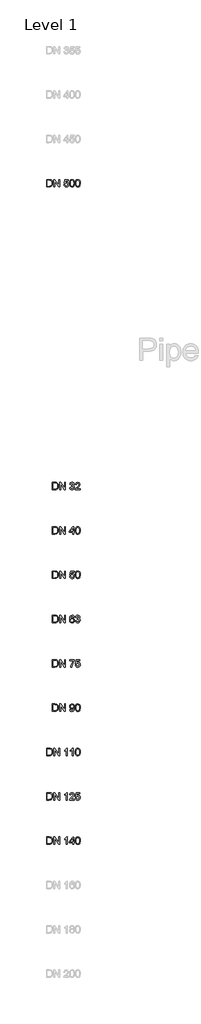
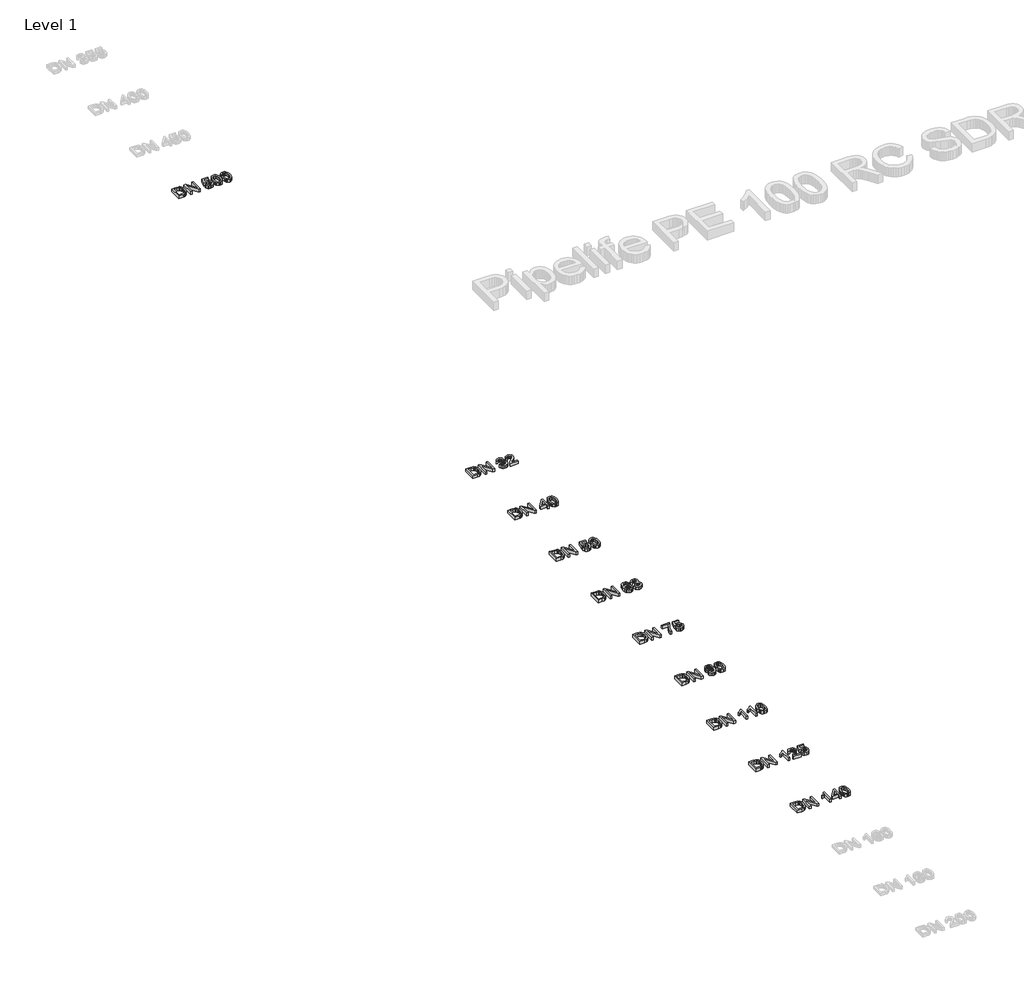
# One storey, part 4 of 17: 10 proxies.
"""IFC4 building model written with IfcOpenShell, lengths in millimetres."""

from ifc_helpers import new_model, si_unit, origin, origin_with_axes, place, context, project, spatial, polyline, outline, extrude, element, save

model = new_model("IFC4")

# Units and contexts
model_context = context("Model", 3, world=origin())
ifc_project = project(units=[si_unit("LENGTHUNIT", "METRE", prefix="MILLI")], contexts=[model_context])

# Site, building, storey
site = spatial("IfcSite", under=ifc_project)
building = spatial("IfcBuilding", under=site)
storey = spatial("IfcBuildingStorey", under=building, Name="Level 1", Elevation=0.0)

# Proxies
placement = place(None, origin())
element("IfcBuildingElementProxy", 1, Name="200mm Arial", ObjectType="200mm Arial", at=placement, inside=storey, context=model_context, shape_type="SweptSolid", body=[
    extrude(outline(polyline([(-19491.3116028, -22313.949573), (-19491.3116028, -22113.0369527), (-19422.0026349, -22113.0369527), (-19386.1464031, -22115.9309577), (-19370.1312736, -22121.5105013), (-19356.6177416, -22130.302881), (-19342.724065, -22145.606772), (-19332.8280393, -22164.6385338), (-19326.9051392, -22187.0302846), (-19324.9308391, -22212.4141423), (-19330.2773908, -22252.9547382), (-19344.0116519, -22282.2136195), (-19362.3567008, -22300.436041), (-19386.3671323, -22310.5160077), (-19418.6671715, -22313.949573), (-19491.3116028, -22313.949573)]), holes=[polyline([(-19466.1975253, -22288.8354954), (-19421.7573803, -22288.8354954), (-19389.4328156, -22285.2057264), (-19370.7934612, -22274.9540815), (-19362.0685265, -22264.0831685), (-19355.5140957, -22250.0116822), (-19351.4122114, -22232.6783089), (-19350.0449167, -22212.0217348), (-19352.7243239, -22184.6513144), (-19360.7625455, -22164.4423301), (-19372.6390025, -22150.5609162), (-19386.8331162, -22142.1732067), (-19422.4440933, -22138.1510302), (-19466.1975253, -22138.1510302), (-19466.1975253, -22288.8354954)])]), origin_with_axes(), (0.0, 0.0, 1.0), 50.0),
    extrude(outline(polyline([(-19290.3989825, -22313.949573), (-19290.3989825, -22113.0369527), (-19263.5190714, -22113.0369527), (-19158.5500754, -22272.2072292), (-19158.5500754, -22113.0369527), (-19133.4359979, -22113.0369527), (-19133.4359979, -22313.949573), (-19160.315909, -22313.949573), (-19265.284905, -22154.7302454), (-19265.284905, -22313.949573), (-19290.3989825, -22313.949573)])), origin_with_axes(), (0.0, 0.0, 1.0), 50.0),
    extrude(outline(polyline([(-19020.422649, -22260.5821582), (-18995.3085714, -22257.4428985), (-18990.6977838, -22272.5199289), (-18982.6534308, -22283.3172655), (-18971.2123008, -22289.8103827), (-18956.4111818, -22291.9747551), (-18938.4094895, -22288.9642541), (-18924.920483, -22279.9327511), (-18916.4959853, -22265.9225785), (-18913.6878195, -22247.9760685), (-18916.3181757, -22231.0780222), (-18924.2092445, -22218.1531014), (-18937.4223395, -22209.9493329), (-18956.0187744, -22207.2147434), (-18978.0671686, -22211.5802764), (-18992.1693118, -22222.9110419), (-19017.2833893, -22219.7717822), (-18995.3085714, -22116.1762123), (-18897.991521, -22116.1762123), (-18897.991521, -22141.2902899), (-18975.0014853, -22141.2902899), (-18985.7436396, -22196.619742), (-18967.8032609, -22185.7304349), (-18949.004491, -22182.1006659), (-18925.5397511, -22186.601089), (-18906.0603994, -22200.1023582), (-18892.9454063, -22220.6792244), (-18888.5737419, -22246.4064386), (-18892.5100793, -22271.5205162), (-18904.3190913, -22293.0048247), (-18914.7546772, -22303.5415782), (-18926.9315713, -22311.0678307), (-18940.8497734, -22315.5835821), (-18956.5092837, -22317.0888326), (-18981.1757715, -22313.2199403), (-19000.8268014, -22301.6132634), (-19014.2974138, -22283.6177025), (-19020.422649, -22260.5821582)])), origin_with_axes(), (0.0, 0.0, 1.0), 50.0),
    extrude(outline(polyline([(-18866.5989241, -22215.1119436), (-18864.7533827, -22182.9529258), (-18859.2167587, -22157.3054194), (-18850.0442343, -22137.7770168), (-18837.2909918, -22123.9753106), (-18820.8650607, -22115.7715422), (-18800.6744705, -22113.0369527), (-18785.1989013, -22114.6556334), (-18771.3420128, -22119.5116758), (-18759.7537299, -22127.4150073), (-18751.0839776, -22138.1755557), (-18739.3117537, -22167.9004209), (-18734.750017, -22215.1119436), (-18736.5771642, -22247.0870203), (-18742.058606, -22272.6732131), (-18751.1759481, -22292.2200098), (-18763.9107965, -22306.0768983), (-18780.3735158, -22314.335849), (-18800.6744705, -22317.0888326), (-18826.7695667, -22312.3063667), (-18846.5861435, -22297.9589689), (-18855.341735, -22282.8298218), (-18861.5957289, -22263.9789353), (-18866.5989241, -22215.1119436)]), holes=[polyline([(-18841.4848465, -22215.0628927), (-18838.5417906, -22254.5672876), (-18829.7126227, -22277.4311536), (-18816.5669727, -22288.3388547), (-18800.6744705, -22291.9747551), (-18784.7819683, -22288.326592), (-18771.6363184, -22277.3821026), (-18762.8071505, -22254.5059739), (-18759.8640945, -22215.0628927), (-18762.7090486, -22176.4475459), (-18771.2439109, -22153.4058703), (-18784.3650354, -22141.9647402), (-18800.9687761, -22138.1510302), (-18816.6896001, -22141.5110191), (-18829.3202152, -22151.5909857), (-18838.4436887, -22176.0674012), (-18841.4848465, -22215.0628927)])]), origin_with_axes(), (0.0, 0.0, 1.0), 50.0),
    extrude(outline(polyline([(-18712.7751992, -22215.1119436), (-18710.9296578, -22182.9529258), (-18705.3930338, -22157.3054194), (-18696.2205094, -22137.7770168), (-18683.4672669, -22123.9753106), (-18667.0413358, -22115.7715422), (-18646.8507456, -22113.0369527), (-18631.3751764, -22114.6556334), (-18617.5182879, -22119.5116758), (-18605.930005, -22127.4150073), (-18597.2602527, -22138.1755557), (-18585.4880288, -22167.9004209), (-18580.9262921, -22215.1119436), (-18582.7534393, -22247.0870203), (-18588.2348811, -22272.6732131), (-18597.3522232, -22292.2200098), (-18610.0870716, -22306.0768983), (-18626.5497909, -22314.335849), (-18646.8507456, -22317.0888326), (-18672.9458418, -22312.3063667), (-18692.7624186, -22297.9589689), (-18701.5180101, -22282.8298218), (-18707.772004, -22263.9789353), (-18712.7751992, -22215.1119436)]), holes=[polyline([(-18687.6611216, -22215.0628927), (-18684.7180657, -22254.5672876), (-18675.8888978, -22277.4311536), (-18662.7432478, -22288.3388547), (-18646.8507456, -22291.9747551), (-18630.9582434, -22288.326592), (-18617.8125935, -22277.3821026), (-18608.9834256, -22254.5059739), (-18606.0403696, -22215.0628927), (-18608.8853237, -22176.4475459), (-18617.420186, -22153.4058703), (-18630.5413105, -22141.9647402), (-18647.1450512, -22138.1510302), (-18662.8658751, -22141.5110191), (-18675.4964903, -22151.5909857), (-18684.6199638, -22176.0674012), (-18687.6611216, -22215.0628927)])]), origin_with_axes(), (0.0, 0.0, 1.0), 50.0),
])
element("IfcBuildingElementProxy", 2, Name="200mm Arial", ObjectType="200mm Arial", at=placement, inside=storey, context=model_context, shape_type="SweptSolid", body=[
    extrude(outline(polyline([(-19337.4878779, -30513.949573), (-19337.4878779, -30313.0369527), (-19268.17891, -30313.0369527), (-19232.3226782, -30315.9309577), (-19216.3075487, -30321.5105013), (-19202.7940167, -30330.302881), (-19188.90034, -30345.606772), (-19179.0043144, -30364.6385338), (-19173.0814143, -30387.0302846), (-19171.1071142, -30412.4141423), (-19176.4536659, -30452.9547382), (-19190.187927, -30482.2136195), (-19208.5329759, -30500.436041), (-19232.5434074, -30510.5160077), (-19264.8434466, -30513.949573), (-19337.4878779, -30513.949573)]), holes=[polyline([(-19312.3738004, -30488.8354954), (-19267.9336553, -30488.8354954), (-19235.6090907, -30485.2057264), (-19216.9697363, -30474.9540815), (-19208.2448016, -30464.0831685), (-19201.6903707, -30450.0116822), (-19197.5884865, -30432.6783089), (-19196.2211917, -30412.0217348), (-19198.9005989, -30384.6513144), (-19206.9388205, -30364.4423301), (-19218.8152776, -30350.5609162), (-19233.0093913, -30342.1732067), (-19268.6203684, -30338.1510302), (-19312.3738004, -30338.1510302), (-19312.3738004, -30488.8354954)])]), origin_with_axes(), (0.0, 0.0, 1.0), 50.0),
    extrude(outline(polyline([(-19136.5752576, -30513.949573), (-19136.5752576, -30313.0369527), (-19109.6953465, -30313.0369527), (-19004.7263505, -30472.2072292), (-19004.7263505, -30313.0369527), (-18979.612273, -30313.0369527), (-18979.612273, -30513.949573), (-19006.4921841, -30513.949573), (-19111.4611801, -30354.7302454), (-19111.4611801, -30513.949573), (-19136.5752576, -30513.949573)])), origin_with_axes(), (0.0, 0.0, 1.0), 50.0),
    extrude(outline(polyline([(-18866.5989241, -30460.5821582), (-18841.4848465, -30457.4428985), (-18835.8623834, -30473.2250361), (-18827.627958, -30483.8813512), (-18816.3769004, -30489.9514041), (-18801.7045401, -30491.9747551), (-18784.4876627, -30489.1911147), (-18771.19486, -30480.8401934), (-18762.6967859, -30468.3812565), (-18759.8640945, -30453.2735692), (-18762.6722604, -30438.9323028), (-18771.0967581, -30427.3011004), (-18783.8500006, -30419.5939726), (-18799.6444009, -30417.02493), (-18817.2536858, -30419.7717822), (-18814.4577826, -30394.6577047), (-18810.4356061, -30394.9520102), (-18795.3892325, -30393.1493885), (-18781.9370142, -30387.7415231), (-18772.4456588, -30378.5935242), (-18769.2818736, -30365.5705016), (-18771.5750047, -30354.7241141), (-18778.454398, -30345.925603), (-18788.9512976, -30340.0946734), (-18802.0969476, -30338.1510302), (-18815.267123, -30340.1130675), (-18826.0338027, -30345.9991794), (-18833.8942147, -30355.809366), (-18838.3455868, -30369.5436271), (-18863.4596644, -30366.4043674), (-18856.0652363, -30343.8532011), (-18842.9073236, -30327.0164685), (-18824.9056313, -30316.5318316), (-18802.9798644, -30313.0369527), (-18787.1915954, -30314.7598667), (-18772.6909134, -30319.9286087), (-18760.4649685, -30328.0833263), (-18751.5009105, -30338.7641669), (-18746.0010747, -30351.0698196), (-18744.1677961, -30364.0989736), (-18745.9091042, -30376.2390794), (-18751.1330285, -30387.2510138), (-18759.7659927, -30396.6320047), (-18771.7344202, -30403.87928), (-18756.0135963, -30410.2313758), (-18744.3639998, -30421.0471064), (-18737.1535127, -30435.7378608), (-18734.750017, -30453.7150276), (-18739.5570084, -30478.191443), (-18753.9779826, -30498.645682), (-18775.744334, -30512.478045), (-18802.5874569, -30517.0888326), (-18826.8676686, -30513.1524953), (-18846.6351945, -30501.3434833), (-18860.3817184, -30483.2804773), (-18866.5989241, -30460.5821582)])), origin_with_axes(), (0.0, 0.0, 1.0), 50.0),
    extrude(outline(polyline([(-18584.0655518, -30488.8354954), (-18584.0655518, -30513.949573), (-18715.9144588, -30513.949573), (-18713.2166575, -30496.6345937), (-18697.9618175, -30469.9754118), (-18666.5201696, -30440.8636832), (-18623.1591451, -30399.0232377), (-18615.028953, -30384.6022634), (-18612.318889, -30370.5736967), (-18614.8756689, -30357.9982638), (-18622.5460085, -30347.5442838), (-18634.3366264, -30340.4993436), (-18649.2542413, -30338.1510302), (-18664.9198829, -30340.4441613), (-18677.0906456, -30347.3235546), (-18684.9449262, -30358.2496499), (-18687.6611216, -30372.6828868), (-18712.7751992, -30369.5436271), (-18706.6867521, -30345.2511527), (-18693.5227081, -30327.5069778), (-18673.96978, -30316.6544589), (-18648.7146811, -30313.0369527), (-18623.2756411, -30317.0591291), (-18603.7595012, -30329.1256586), (-18591.3434839, -30347.1518763), (-18587.2048115, -30369.0531178), (-18591.6684463, -30392.8673456), (-18606.5063535, -30417.4909138), (-18642.4852126, -30451.9001431), (-18671.376212, -30476.0577275), (-18682.7069774, -30488.8354954), (-18584.0655518, -30488.8354954)])), origin_with_axes(), (0.0, 0.0, 1.0), 50.0),
])
element("IfcBuildingElementProxy", 3, Name="200mm Arial", ObjectType="200mm Arial", at=placement, inside=storey, context=model_context, shape_type="SweptSolid", body=[
    extrude(outline(polyline([(-19337.4878779, -31713.949573), (-19337.4878779, -31513.0369527), (-19268.17891, -31513.0369527), (-19232.3226782, -31515.9309577), (-19216.3075487, -31521.5105013), (-19202.7940167, -31530.302881), (-19188.90034, -31545.606772), (-19179.0043144, -31564.6385338), (-19173.0814143, -31587.0302846), (-19171.1071142, -31612.4141423), (-19176.4536659, -31652.9547382), (-19190.187927, -31682.2136195), (-19208.5329759, -31700.436041), (-19232.5434074, -31710.5160077), (-19264.8434466, -31713.949573), (-19337.4878779, -31713.949573)]), holes=[polyline([(-19312.3738004, -31688.8354954), (-19267.9336553, -31688.8354954), (-19235.6090907, -31685.2057264), (-19216.9697363, -31674.9540815), (-19208.2448016, -31664.0831685), (-19201.6903707, -31650.0116822), (-19197.5884865, -31632.6783089), (-19196.2211917, -31612.0217348), (-19198.9005989, -31584.6513144), (-19206.9388205, -31564.4423301), (-19218.8152776, -31550.5609162), (-19233.0093913, -31542.1732067), (-19268.6203684, -31538.1510302), (-19312.3738004, -31538.1510302), (-19312.3738004, -31688.8354954)])]), origin_with_axes(), (0.0, 0.0, 1.0), 50.0),
    extrude(outline(polyline([(-19136.5752576, -31713.949573), (-19136.5752576, -31513.0369527), (-19109.6953465, -31513.0369527), (-19004.7263505, -31672.2072292), (-19004.7263505, -31513.0369527), (-18979.612273, -31513.0369527), (-18979.612273, -31713.949573), (-19006.4921841, -31713.949573), (-19111.4611801, -31554.7302454), (-19111.4611801, -31713.949573), (-19136.5752576, -31713.949573)])), origin_with_axes(), (0.0, 0.0, 1.0), 50.0),
    extrude(outline(polyline([(-18784.9781721, -31713.949573), (-18784.9781721, -31666.8606776), (-18876.0167031, -31666.8606776), (-18876.0167031, -31641.7466), (-18778.6996527, -31516.1762123), (-18759.8640945, -31516.1762123), (-18759.8640945, -31641.7466), (-18734.750017, -31641.7466), (-18734.750017, -31666.8606776), (-18759.8640945, -31666.8606776), (-18759.8640945, -31713.949573), (-18784.9781721, -31713.949573)]), holes=[polyline([(-18784.9781721, -31641.7466), (-18784.9781721, -31564.1480245), (-18845.1146156, -31641.7466), (-18784.9781721, -31641.7466)])]), origin_with_axes(), (0.0, 0.0, 1.0), 50.0),
    extrude(outline(polyline([(-18712.7751992, -31615.1119436), (-18710.9296578, -31582.9529258), (-18705.3930338, -31557.3054194), (-18696.2205094, -31537.7770168), (-18683.4672669, -31523.9753106), (-18667.0413358, -31515.7715422), (-18646.8507456, -31513.0369527), (-18631.3751764, -31514.6556334), (-18617.5182879, -31519.5116758), (-18605.930005, -31527.4150073), (-18597.2602527, -31538.1755557), (-18585.4880288, -31567.9004209), (-18580.9262921, -31615.1119436), (-18582.7534393, -31647.0870203), (-18588.2348811, -31672.6732131), (-18597.3522232, -31692.2200098), (-18610.0870716, -31706.0768983), (-18626.5497909, -31714.335849), (-18646.8507456, -31717.0888326), (-18672.9458418, -31712.3063667), (-18692.7624186, -31697.9589689), (-18701.5180101, -31682.8298218), (-18707.772004, -31663.9789353), (-18712.7751992, -31615.1119436)]), holes=[polyline([(-18687.6611216, -31615.0628927), (-18684.7180657, -31654.5672876), (-18675.8888978, -31677.4311536), (-18662.7432478, -31688.3388547), (-18646.8507456, -31691.9747551), (-18630.9582434, -31688.326592), (-18617.8125935, -31677.3821026), (-18608.9834256, -31654.5059739), (-18606.0403696, -31615.0628927), (-18608.8853237, -31576.4475459), (-18617.420186, -31553.4058703), (-18630.5413105, -31541.9647402), (-18647.1450512, -31538.1510302), (-18662.8658751, -31541.5110191), (-18675.4964903, -31551.5909857), (-18684.6199638, -31576.0674012), (-18687.6611216, -31615.0628927)])]), origin_with_axes(), (0.0, 0.0, 1.0), 50.0),
])
element("IfcBuildingElementProxy", 4, Name="200mm Arial", ObjectType="200mm Arial", at=placement, inside=storey, context=model_context, shape_type="SweptSolid", body=[
    extrude(outline(polyline([(-19337.4878779, -32913.949573), (-19337.4878779, -32713.0369527), (-19268.17891, -32713.0369527), (-19232.3226782, -32715.9309577), (-19216.3075487, -32721.5105013), (-19202.7940167, -32730.302881), (-19188.90034, -32745.606772), (-19179.0043144, -32764.6385338), (-19173.0814143, -32787.0302846), (-19171.1071142, -32812.4141423), (-19176.4536659, -32852.9547382), (-19190.187927, -32882.2136195), (-19208.5329759, -32900.436041), (-19232.5434074, -32910.5160077), (-19264.8434466, -32913.949573), (-19337.4878779, -32913.949573)]), holes=[polyline([(-19312.3738004, -32888.8354954), (-19267.9336553, -32888.8354954), (-19235.6090907, -32885.2057264), (-19216.9697363, -32874.9540815), (-19208.2448016, -32864.0831685), (-19201.6903707, -32850.0116822), (-19197.5884865, -32832.6783089), (-19196.2211917, -32812.0217348), (-19198.9005989, -32784.6513144), (-19206.9388205, -32764.4423301), (-19218.8152776, -32750.5609162), (-19233.0093913, -32742.1732067), (-19268.6203684, -32738.1510302), (-19312.3738004, -32738.1510302), (-19312.3738004, -32888.8354954)])]), origin_with_axes(), (0.0, 0.0, 1.0), 50.0),
    extrude(outline(polyline([(-19136.5752576, -32913.949573), (-19136.5752576, -32713.0369527), (-19109.6953465, -32713.0369527), (-19004.7263505, -32872.2072292), (-19004.7263505, -32713.0369527), (-18979.612273, -32713.0369527), (-18979.612273, -32913.949573), (-19006.4921841, -32913.949573), (-19111.4611801, -32754.7302454), (-19111.4611801, -32913.949573), (-19136.5752576, -32913.949573)])), origin_with_axes(), (0.0, 0.0, 1.0), 50.0),
    extrude(outline(polyline([(-18866.5989241, -32860.5821582), (-18841.4848465, -32857.4428985), (-18836.8740589, -32872.5199289), (-18828.8297059, -32883.3172655), (-18817.3885758, -32889.8103827), (-18802.5874569, -32891.9747551), (-18784.5857646, -32888.9642541), (-18771.0967581, -32879.9327511), (-18762.6722604, -32865.9225785), (-18759.8640945, -32847.9760685), (-18762.4944508, -32831.0780222), (-18770.3855196, -32818.1531014), (-18783.5986146, -32809.9493329), (-18802.1950494, -32807.2147434), (-18824.2434437, -32811.5802764), (-18838.3455868, -32822.9110419), (-18863.4596644, -32819.7717822), (-18841.4848465, -32716.1762123), (-18744.1677961, -32716.1762123), (-18744.1677961, -32741.2902899), (-18821.1777604, -32741.2902899), (-18831.9199147, -32796.619742), (-18813.979536, -32785.7304349), (-18795.1807661, -32782.1006659), (-18771.7160261, -32786.601089), (-18752.2366745, -32800.1023582), (-18739.1216814, -32820.6792244), (-18734.750017, -32846.4064386), (-18738.6863543, -32871.5205162), (-18750.4953664, -32893.0048247), (-18760.9309523, -32903.5415782), (-18773.1078464, -32911.0678307), (-18787.0260485, -32915.5835821), (-18802.6855588, -32917.0888326), (-18827.3520466, -32913.2199403), (-18847.0030765, -32901.6132634), (-18860.4736888, -32883.6177025), (-18866.5989241, -32860.5821582)])), origin_with_axes(), (0.0, 0.0, 1.0), 50.0),
    extrude(outline(polyline([(-18712.7751992, -32815.1119436), (-18710.9296578, -32782.9529258), (-18705.3930338, -32757.3054194), (-18696.2205094, -32737.7770168), (-18683.4672669, -32723.9753106), (-18667.0413358, -32715.7715422), (-18646.8507456, -32713.0369527), (-18631.3751764, -32714.6556334), (-18617.5182879, -32719.5116758), (-18605.930005, -32727.4150073), (-18597.2602527, -32738.1755557), (-18585.4880288, -32767.9004209), (-18580.9262921, -32815.1119436), (-18582.7534393, -32847.0870203), (-18588.2348811, -32872.6732131), (-18597.3522232, -32892.2200098), (-18610.0870716, -32906.0768983), (-18626.5497909, -32914.335849), (-18646.8507456, -32917.0888326), (-18672.9458418, -32912.3063667), (-18692.7624186, -32897.9589689), (-18701.5180101, -32882.8298218), (-18707.772004, -32863.9789353), (-18712.7751992, -32815.1119436)]), holes=[polyline([(-18687.6611216, -32815.0628927), (-18684.7180657, -32854.5672876), (-18675.8888978, -32877.4311536), (-18662.7432478, -32888.3388547), (-18646.8507456, -32891.9747551), (-18630.9582434, -32888.326592), (-18617.8125935, -32877.3821026), (-18608.9834256, -32854.5059739), (-18606.0403696, -32815.0628927), (-18608.8853237, -32776.4475459), (-18617.420186, -32753.4058703), (-18630.5413105, -32741.9647402), (-18647.1450512, -32738.1510302), (-18662.8658751, -32741.5110191), (-18675.4964903, -32751.5909857), (-18684.6199638, -32776.0674012), (-18687.6611216, -32815.0628927)])]), origin_with_axes(), (0.0, 0.0, 1.0), 50.0),
])
element("IfcBuildingElementProxy", 5, Name="200mm Arial", ObjectType="200mm Arial", at=placement, inside=storey, context=model_context, shape_type="SweptSolid", body=[
    extrude(outline(polyline([(-19337.4878779, -34113.949573), (-19337.4878779, -33913.0369527), (-19268.17891, -33913.0369527), (-19232.3226782, -33915.9309577), (-19216.3075487, -33921.5105013), (-19202.7940167, -33930.302881), (-19188.90034, -33945.606772), (-19179.0043144, -33964.6385338), (-19173.0814143, -33987.0302846), (-19171.1071142, -34012.4141423), (-19176.4536659, -34052.9547382), (-19190.187927, -34082.2136195), (-19208.5329759, -34100.436041), (-19232.5434074, -34110.5160077), (-19264.8434466, -34113.949573), (-19337.4878779, -34113.949573)]), holes=[polyline([(-19312.3738004, -34088.8354954), (-19267.9336553, -34088.8354954), (-19235.6090907, -34085.2057264), (-19216.9697363, -34074.9540815), (-19208.2448016, -34064.0831685), (-19201.6903707, -34050.0116822), (-19197.5884865, -34032.6783089), (-19196.2211917, -34012.0217348), (-19198.9005989, -33984.6513144), (-19206.9388205, -33964.4423301), (-19218.8152776, -33950.5609162), (-19233.0093913, -33942.1732067), (-19268.6203684, -33938.1510302), (-19312.3738004, -33938.1510302), (-19312.3738004, -34088.8354954)])]), origin_with_axes(), (0.0, 0.0, 1.0), 50.0),
    extrude(outline(polyline([(-19136.5752576, -34113.949573), (-19136.5752576, -33913.0369527), (-19109.6953465, -33913.0369527), (-19004.7263505, -34072.2072292), (-19004.7263505, -33913.0369527), (-18979.612273, -33913.0369527), (-18979.612273, -34113.949573), (-19006.4921841, -34113.949573), (-19111.4611801, -33954.7302454), (-19111.4611801, -34113.949573), (-19136.5752576, -34113.949573)])), origin_with_axes(), (0.0, 0.0, 1.0), 50.0),
    extrude(outline(polyline([(-18737.8892767, -33966.4043674), (-18763.0033542, -33969.5436271), (-18772.5192352, -33948.5988789), (-18783.9113143, -33940.7629924), (-18797.6823636, -33938.1510302), (-18820.3438945, -33944.2333458), (-18829.7800677, -33953.8411973), (-18837.4871955, -33967.066555), (-18842.6927257, -33985.7733545), (-18844.6241062, -34011.8255311), (-18834.5502709, -34000.0717013), (-18822.4776101, -33991.7882251), (-18809.0805741, -33986.8770005), (-18795.0336133, -33985.2399256), (-18771.8325221, -33989.7158232), (-18752.3593018, -34003.143516), (-18739.1523382, -34023.6590686), (-18734.750017, -34049.3985455), (-18736.8224189, -34067.3818437), (-18743.0396246, -34084.0530295), (-18752.8865994, -34098.1919608), (-18765.8483083, -34108.5784958), (-18781.3361403, -34114.9612484), (-18798.7614842, -34117.0888326), (-18827.2539447, -34111.4479754), (-18849.9461324, -34094.5254036), (-18858.6051549, -34081.4165418), (-18864.7901709, -34064.6533856), (-18869.7381838, -34020.1641897), (-18864.2444793, -33970.144501), (-18857.3773487, -33951.0667539), (-18847.7633659, -33935.9437382), (-18837.3431084, -33925.9220195), (-18825.2612505, -33918.763649), (-18796.1127338, -33913.0369527), (-18774.0766023, -33916.5808825), (-18756.4305292, -33927.2126722), (-18744.0696942, -33944.0984558), (-18737.8892767, -33966.4043674)]), holes=[polyline([(-18844.6241062, -34049.0061381), (-18838.8115707, -34070.7602267), (-18823.3605269, -34086.554627), (-18800.7235215, -34091.9747551), (-18784.1504376, -34089.1665892), (-18771.1212836, -34080.7420915), (-18762.6783918, -34067.4983397), (-18759.8640945, -34050.2324114), (-18762.6416036, -34033.6593275), (-18770.9741308, -34021.022581), (-18784.224014, -34013.0211476), (-18801.7535911, -34010.3540031), (-18818.3021495, -34013.0211476), (-18832.1406439, -34021.022581), (-18841.5032406, -34033.3527592), (-18844.6241062, -34049.0061381)])]), origin_with_axes(), (0.0, 0.0, 1.0), 50.0),
    extrude(outline(polyline([(-18712.7751992, -34060.5821582), (-18687.6611216, -34057.4428985), (-18682.0386585, -34073.2250361), (-18673.8042331, -34083.8813512), (-18662.5531754, -34089.9514041), (-18647.8808152, -34091.9747551), (-18630.6639378, -34089.1911147), (-18617.3711351, -34080.8401934), (-18608.873061, -34068.3812565), (-18606.0403696, -34053.2735692), (-18608.8485355, -34038.9323028), (-18617.2730332, -34027.3011004), (-18630.0262757, -34019.5939726), (-18645.820676, -34017.02493), (-18663.4299609, -34019.7717822), (-18660.6340577, -33994.6577047), (-18656.6118812, -33994.9520102), (-18641.5655076, -33993.1493885), (-18628.1132893, -33987.7415231), (-18618.6219339, -33978.5935242), (-18615.4581487, -33965.5705016), (-18617.7512798, -33954.7241141), (-18624.6306731, -33945.925603), (-18635.1275727, -33940.0946734), (-18648.2732227, -33938.1510302), (-18661.4433981, -33940.1130675), (-18672.2100778, -33945.9991794), (-18680.0704898, -33955.809366), (-18684.5218619, -33969.5436271), (-18709.6359395, -33966.4043674), (-18702.2415114, -33943.8532011), (-18689.0835987, -33927.0164685), (-18671.0819064, -33916.5318316), (-18649.1561395, -33913.0369527), (-18633.3678705, -33914.7598667), (-18618.8671885, -33919.9286087), (-18606.6412435, -33928.0833263), (-18597.6771856, -33938.7641669), (-18592.1773498, -33951.0698196), (-18590.3440712, -33964.0989736), (-18592.0853793, -33976.2390794), (-18597.3093036, -33987.2510138), (-18605.9422678, -33996.6320047), (-18617.9106953, -34003.87928), (-18602.1898714, -34010.2313758), (-18590.5402749, -34021.0471064), (-18583.3297878, -34035.7378608), (-18580.9262921, -34053.7150276), (-18585.7332835, -34078.191443), (-18600.1542577, -34098.645682), (-18621.9206091, -34112.478045), (-18648.763732, -34117.0888326), (-18673.0439437, -34113.1524953), (-18692.8114695, -34101.3434833), (-18706.5579934, -34083.2804773), (-18712.7751992, -34060.5821582)])), origin_with_axes(), (0.0, 0.0, 1.0), 50.0),
])
element("IfcBuildingElementProxy", 6, Name="200mm Arial", ObjectType="200mm Arial", at=placement, inside=storey, context=model_context, shape_type="SweptSolid", body=[
    extrude(outline(polyline([(-19337.4878779, -35313.949573), (-19337.4878779, -35113.0369527), (-19268.17891, -35113.0369527), (-19232.3226782, -35115.9309577), (-19216.3075487, -35121.5105013), (-19202.7940167, -35130.302881), (-19188.90034, -35145.606772), (-19179.0043144, -35164.6385338), (-19173.0814143, -35187.0302846), (-19171.1071142, -35212.4141423), (-19176.4536659, -35252.9547382), (-19190.187927, -35282.2136195), (-19208.5329759, -35300.436041), (-19232.5434074, -35310.5160077), (-19264.8434466, -35313.949573), (-19337.4878779, -35313.949573)]), holes=[polyline([(-19312.3738004, -35288.8354954), (-19267.9336553, -35288.8354954), (-19235.6090907, -35285.2057264), (-19216.9697363, -35274.9540815), (-19208.2448016, -35264.0831685), (-19201.6903707, -35250.0116822), (-19197.5884865, -35232.6783089), (-19196.2211917, -35212.0217348), (-19198.9005989, -35184.6513144), (-19206.9388205, -35164.4423301), (-19218.8152776, -35150.5609162), (-19233.0093913, -35142.1732067), (-19268.6203684, -35138.1510302), (-19312.3738004, -35138.1510302), (-19312.3738004, -35288.8354954)])]), origin_with_axes(), (0.0, 0.0, 1.0), 50.0),
    extrude(outline(polyline([(-19136.5752576, -35313.949573), (-19136.5752576, -35113.0369527), (-19109.6953465, -35113.0369527), (-19004.7263505, -35272.2072292), (-19004.7263505, -35113.0369527), (-18979.612273, -35113.0369527), (-18979.612273, -35313.949573), (-19006.4921841, -35313.949573), (-19111.4611801, -35154.7302454), (-19111.4611801, -35313.949573), (-19136.5752576, -35313.949573)])), origin_with_axes(), (0.0, 0.0, 1.0), 50.0),
    extrude(outline(polyline([(-18866.5989241, -35141.2902899), (-18866.5989241, -35116.1762123), (-18734.750017, -35116.1762123), (-18734.750017, -35136.4832985), (-18753.5426556, -35160.2668695), (-18772.1513532, -35190.5129008), (-18788.5650215, -35224.4622776), (-18800.7725724, -35259.3558849), (-18810.0922496, -35313.949573), (-18835.2063271, -35313.949573), (-18832.4901318, -35288.0629432), (-18825.2244623, -35257.2957457), (-18813.6055227, -35224.6830068), (-18797.8295164, -35193.2597531), (-18779.4108912, -35164.8531317), (-18759.8640945, -35141.2902899), (-18866.5989241, -35141.2902899)])), origin_with_axes(), (0.0, 0.0, 1.0), 50.0),
    extrude(outline(polyline([(-18712.7751992, -35260.5821582), (-18687.6611216, -35257.4428985), (-18683.0503339, -35272.5199289), (-18675.005981, -35283.3172655), (-18663.5648509, -35289.8103827), (-18648.763732, -35291.9747551), (-18630.7620397, -35288.9642541), (-18617.2730332, -35279.9327511), (-18608.8485355, -35265.9225785), (-18606.0403696, -35247.9760685), (-18608.6707259, -35231.0780222), (-18616.5617947, -35218.1531014), (-18629.7748897, -35209.9493329), (-18648.3713245, -35207.2147434), (-18670.4197188, -35211.5802764), (-18684.5218619, -35222.9110419), (-18709.6359395, -35219.7717822), (-18687.6611216, -35116.1762123), (-18590.3440712, -35116.1762123), (-18590.3440712, -35141.2902899), (-18667.3540355, -35141.2902899), (-18678.0961897, -35196.619742), (-18660.1558111, -35185.7304349), (-18641.3570412, -35182.1006659), (-18617.8923012, -35186.601089), (-18598.4129496, -35200.1023582), (-18585.2979565, -35220.6792244), (-18580.9262921, -35246.4064386), (-18584.8626294, -35271.5205162), (-18596.6716415, -35293.0048247), (-18607.1072274, -35303.5415782), (-18619.2841214, -35311.0678307), (-18633.2023236, -35315.5835821), (-18648.8618339, -35317.0888326), (-18673.5283216, -35313.2199403), (-18693.1793515, -35301.6132634), (-18706.6499639, -35283.6177025), (-18712.7751992, -35260.5821582)])), origin_with_axes(), (0.0, 0.0, 1.0), 50.0),
])
element("IfcBuildingElementProxy", 7, Name="200mm Arial", ObjectType="200mm Arial", at=placement, inside=storey, context=model_context, shape_type="SweptSolid", body=[
    extrude(outline(polyline([(-19337.4878779, -36513.949573), (-19337.4878779, -36313.0369527), (-19268.17891, -36313.0369527), (-19232.3226782, -36315.9309577), (-19216.3075487, -36321.5105013), (-19202.7940167, -36330.302881), (-19188.90034, -36345.606772), (-19179.0043144, -36364.6385338), (-19173.0814143, -36387.0302846), (-19171.1071142, -36412.4141423), (-19176.4536659, -36452.9547382), (-19190.187927, -36482.2136195), (-19208.5329759, -36500.436041), (-19232.5434074, -36510.5160077), (-19264.8434466, -36513.949573), (-19337.4878779, -36513.949573)]), holes=[polyline([(-19312.3738004, -36488.8354954), (-19267.9336553, -36488.8354954), (-19235.6090907, -36485.2057264), (-19216.9697363, -36474.9540815), (-19208.2448016, -36464.0831685), (-19201.6903707, -36450.0116822), (-19197.5884865, -36432.6783089), (-19196.2211917, -36412.0217348), (-19198.9005989, -36384.6513144), (-19206.9388205, -36364.4423301), (-19218.8152776, -36350.5609162), (-19233.0093913, -36342.1732067), (-19268.6203684, -36338.1510302), (-19312.3738004, -36338.1510302), (-19312.3738004, -36488.8354954)])]), origin_with_axes(), (0.0, 0.0, 1.0), 50.0),
    extrude(outline(polyline([(-19136.5752576, -36513.949573), (-19136.5752576, -36313.0369527), (-19109.6953465, -36313.0369527), (-19004.7263505, -36472.2072292), (-19004.7263505, -36313.0369527), (-18979.612273, -36313.0369527), (-18979.612273, -36513.949573), (-19006.4921841, -36513.949573), (-19111.4611801, -36354.7302454), (-19111.4611801, -36513.949573), (-19136.5752576, -36513.949573)])), origin_with_axes(), (0.0, 0.0, 1.0), 50.0),
    extrude(outline(polyline([(-18863.4596644, -36463.7214179), (-18838.3455868, -36460.5821582), (-18834.0536302, -36474.8375855), (-18827.0638723, -36484.5435388), (-18817.5479914, -36490.116951), (-18805.6776657, -36491.9747551), (-18785.3460541, -36487.1922892), (-18771.562742, -36474.4145212), (-18763.3467108, -36452.5868562), (-18759.7169417, -36423.4506021), (-18759.8640945, -36418.5455089), (-18768.5645037, -36429.1650358), (-18779.9504515, -36437.5772708), (-18793.2003347, -36443.0587125), (-18807.4925502, -36444.8858597), (-18830.3932044, -36440.4222249), (-18849.4556231, -36427.0313202), (-18862.3130988, -36406.3440894), (-18866.5989241, -36379.9914758), (-18862.1046324, -36352.7682081), (-18848.6217572, -36331.4310524), (-18828.3698534, -36317.6354776), (-18803.5684756, -36313.0369527), (-18784.8371506, -36315.6611776), (-18767.7858202, -36323.5338523), (-18753.5242615, -36336.2625693), (-18743.162252, -36353.4549212), (-18736.8530757, -36377.2200981), (-18734.750017, -36409.6672901), (-18736.8469444, -36444.070388), (-18743.1377265, -36470.6621249), (-18753.5671811, -36490.6442486), (-18768.0801258, -36505.2185069), (-18786.0511612, -36514.1212512), (-18806.8548881, -36517.0888326), (-18828.3269338, -36513.5878223), (-18845.4579721, -36503.0847914), (-18857.4386624, -36486.2419274), (-18863.4596644, -36463.7214179)]), holes=[polyline([(-18759.8640945, -36379.4028646), (-18762.5741586, -36362.3821909), (-18770.7043507, -36349.2855919), (-18783.3227031, -36340.9346706), (-18799.4972481, -36338.1510302), (-18816.2726671, -36341.1492685), (-18829.7126227, -36350.1439832), (-18838.5417906, -36363.9089012), (-18841.4848465, -36381.2177491), (-18838.7012061, -36396.7362379), (-18830.3502848, -36409.0541534), (-18817.241423, -36417.092375), (-18800.1839612, -36419.7717822), (-18784.1381749, -36417.092375), (-18771.2193855, -36409.0541534), (-18762.7029173, -36396.2825168), (-18759.8640945, -36379.4028646)])]), origin_with_axes(), (0.0, 0.0, 1.0), 50.0),
    extrude(outline(polyline([(-18712.7751992, -36415.1119436), (-18710.9296578, -36382.9529258), (-18705.3930338, -36357.3054194), (-18696.2205094, -36337.7770168), (-18683.4672669, -36323.9753106), (-18667.0413358, -36315.7715422), (-18646.8507456, -36313.0369527), (-18631.3751764, -36314.6556334), (-18617.5182879, -36319.5116758), (-18605.930005, -36327.4150073), (-18597.2602527, -36338.1755557), (-18585.4880288, -36367.9004209), (-18580.9262921, -36415.1119436), (-18582.7534393, -36447.0870203), (-18588.2348811, -36472.6732131), (-18597.3522232, -36492.2200098), (-18610.0870716, -36506.0768983), (-18626.5497909, -36514.335849), (-18646.8507456, -36517.0888326), (-18672.9458418, -36512.3063667), (-18692.7624186, -36497.9589689), (-18701.5180101, -36482.8298218), (-18707.772004, -36463.9789353), (-18712.7751992, -36415.1119436)]), holes=[polyline([(-18687.6611216, -36415.0628927), (-18684.7180657, -36454.5672876), (-18675.8888978, -36477.4311536), (-18662.7432478, -36488.3388547), (-18646.8507456, -36491.9747551), (-18630.9582434, -36488.326592), (-18617.8125935, -36477.3821026), (-18608.9834256, -36454.5059739), (-18606.0403696, -36415.0628927), (-18608.8853237, -36376.4475459), (-18617.420186, -36353.4058703), (-18630.5413105, -36341.9647402), (-18647.1450512, -36338.1510302), (-18662.8658751, -36341.5110191), (-18675.4964903, -36351.5909857), (-18684.6199638, -36376.0674012), (-18687.6611216, -36415.0628927)])]), origin_with_axes(), (0.0, 0.0, 1.0), 50.0),
])
element("IfcBuildingElementProxy", 8, Name="200mm Arial", ObjectType="200mm Arial", at=placement, inside=storey, context=model_context, shape_type="SweptSolid", body=[
    extrude(outline(polyline([(-19491.3116028, -37713.949573), (-19491.3116028, -37513.0369527), (-19422.0026349, -37513.0369527), (-19386.1464031, -37515.9309577), (-19370.1312736, -37521.5105013), (-19356.6177416, -37530.302881), (-19342.724065, -37545.606772), (-19332.8280393, -37564.6385338), (-19326.9051392, -37587.0302846), (-19324.9308391, -37612.4141423), (-19330.2773908, -37652.9547382), (-19344.0116519, -37682.2136195), (-19362.3567008, -37700.436041), (-19386.3671323, -37710.5160077), (-19418.6671715, -37713.949573), (-19491.3116028, -37713.949573)]), holes=[polyline([(-19466.1975253, -37688.8354954), (-19421.7573803, -37688.8354954), (-19389.4328156, -37685.2057264), (-19370.7934612, -37674.9540815), (-19362.0685265, -37664.0831685), (-19355.5140957, -37650.0116822), (-19351.4122114, -37632.6783089), (-19350.0449167, -37612.0217348), (-19352.7243239, -37584.6513144), (-19360.7625455, -37564.4423301), (-19372.6390025, -37550.5609162), (-19386.8331162, -37542.1732067), (-19422.4440933, -37538.1510302), (-19466.1975253, -37538.1510302), (-19466.1975253, -37688.8354954)])]), origin_with_axes(), (0.0, 0.0, 1.0), 50.0),
    extrude(outline(polyline([(-19290.3989825, -37713.949573), (-19290.3989825, -37513.0369527), (-19263.5190714, -37513.0369527), (-19158.5500754, -37672.2072292), (-19158.5500754, -37513.0369527), (-19133.4359979, -37513.0369527), (-19133.4359979, -37713.949573), (-19160.315909, -37713.949573), (-19265.284905, -37554.7302454), (-19265.284905, -37713.949573), (-19290.3989825, -37713.949573)])), origin_with_axes(), (0.0, 0.0, 1.0), 50.0),
    extrude(outline(polyline([(-18926.2448582, -37713.949573), (-18951.3589358, -37713.949573), (-18951.3589358, -37557.3789958), (-18975.1486381, -37574.3260931), (-19001.5870908, -37587.0057592), (-19001.5870908, -37563.2651077), (-18964.7743658, -37539.769711), (-18951.3037535, -37526.1948653), (-18942.431666, -37513.0369527), (-18926.2448582, -37513.0369527), (-18926.2448582, -37713.949573)])), origin_with_axes(), (0.0, 0.0, 1.0), 50.0),
    extrude(outline(polyline([(-18772.4211333, -37713.949573), (-18797.5352108, -37713.949573), (-18797.5352108, -37557.3789958), (-18821.3249132, -37574.3260931), (-18847.7633659, -37587.0057592), (-18847.7633659, -37563.2651077), (-18810.9506409, -37539.769711), (-18797.4800285, -37526.1948653), (-18788.6079411, -37513.0369527), (-18772.4211333, -37513.0369527), (-18772.4211333, -37713.949573)])), origin_with_axes(), (0.0, 0.0, 1.0), 50.0),
    extrude(outline(polyline([(-18712.7751992, -37615.1119436), (-18710.9296578, -37582.9529258), (-18705.3930338, -37557.3054194), (-18696.2205094, -37537.7770168), (-18683.4672669, -37523.9753106), (-18667.0413358, -37515.7715422), (-18646.8507456, -37513.0369527), (-18631.3751764, -37514.6556334), (-18617.5182879, -37519.5116758), (-18605.930005, -37527.4150073), (-18597.2602527, -37538.1755557), (-18585.4880288, -37567.9004209), (-18580.9262921, -37615.1119436), (-18582.7534393, -37647.0870203), (-18588.2348811, -37672.6732131), (-18597.3522232, -37692.2200098), (-18610.0870716, -37706.0768983), (-18626.5497909, -37714.335849), (-18646.8507456, -37717.0888326), (-18672.9458418, -37712.3063667), (-18692.7624186, -37697.9589689), (-18701.5180101, -37682.8298218), (-18707.772004, -37663.9789353), (-18712.7751992, -37615.1119436)]), holes=[polyline([(-18687.6611216, -37615.0628927), (-18684.7180657, -37654.5672876), (-18675.8888978, -37677.4311536), (-18662.7432478, -37688.3388547), (-18646.8507456, -37691.9747551), (-18630.9582434, -37688.326592), (-18617.8125935, -37677.3821026), (-18608.9834256, -37654.5059739), (-18606.0403696, -37615.0628927), (-18608.8853237, -37576.4475459), (-18617.420186, -37553.4058703), (-18630.5413105, -37541.9647402), (-18647.1450512, -37538.1510302), (-18662.8658751, -37541.5110191), (-18675.4964903, -37551.5909857), (-18684.6199638, -37576.0674012), (-18687.6611216, -37615.0628927)])]), origin_with_axes(), (0.0, 0.0, 1.0), 50.0),
])
element("IfcBuildingElementProxy", 9, Name="200mm Arial", ObjectType="200mm Arial", at=placement, inside=storey, context=model_context, shape_type="SweptSolid", body=[
    extrude(outline(polyline([(-19491.3116028, -38913.949573), (-19491.3116028, -38713.0369527), (-19422.0026349, -38713.0369527), (-19386.1464031, -38715.9309577), (-19370.1312736, -38721.5105013), (-19356.6177416, -38730.302881), (-19342.724065, -38745.606772), (-19332.8280393, -38764.6385338), (-19326.9051392, -38787.0302846), (-19324.9308391, -38812.4141423), (-19330.2773908, -38852.9547382), (-19344.0116519, -38882.2136195), (-19362.3567008, -38900.436041), (-19386.3671323, -38910.5160077), (-19418.6671715, -38913.949573), (-19491.3116028, -38913.949573)]), holes=[polyline([(-19466.1975253, -38888.8354954), (-19421.7573803, -38888.8354954), (-19389.4328156, -38885.2057264), (-19370.7934612, -38874.9540815), (-19362.0685265, -38864.0831685), (-19355.5140957, -38850.0116822), (-19351.4122114, -38832.6783089), (-19350.0449167, -38812.0217348), (-19352.7243239, -38784.6513144), (-19360.7625455, -38764.4423301), (-19372.6390025, -38750.5609162), (-19386.8331162, -38742.1732067), (-19422.4440933, -38738.1510302), (-19466.1975253, -38738.1510302), (-19466.1975253, -38888.8354954)])]), origin_with_axes(), (0.0, 0.0, 1.0), 50.0),
    extrude(outline(polyline([(-19290.3989825, -38913.949573), (-19290.3989825, -38713.0369527), (-19263.5190714, -38713.0369527), (-19158.5500754, -38872.2072292), (-19158.5500754, -38713.0369527), (-19133.4359979, -38713.0369527), (-19133.4359979, -38913.949573), (-19160.315909, -38913.949573), (-19265.284905, -38754.7302454), (-19265.284905, -38913.949573), (-19290.3989825, -38913.949573)])), origin_with_axes(), (0.0, 0.0, 1.0), 50.0),
    extrude(outline(polyline([(-18926.2448582, -38913.949573), (-18951.3589358, -38913.949573), (-18951.3589358, -38757.3789958), (-18975.1486381, -38774.3260931), (-19001.5870908, -38787.0057592), (-19001.5870908, -38763.2651077), (-18964.7743658, -38739.769711), (-18951.3037535, -38726.1948653), (-18942.431666, -38713.0369527), (-18926.2448582, -38713.0369527), (-18926.2448582, -38913.949573)])), origin_with_axes(), (0.0, 0.0, 1.0), 50.0),
    extrude(outline(polyline([(-18737.8892767, -38888.8354954), (-18737.8892767, -38913.949573), (-18869.7381838, -38913.949573), (-18867.0403825, -38896.6345937), (-18851.7855424, -38869.9754118), (-18820.3438945, -38840.8636832), (-18776.98287, -38799.0232377), (-18768.852678, -38784.6022634), (-18766.1426139, -38770.5736967), (-18768.6993938, -38757.9982638), (-18776.3697334, -38747.5442838), (-18788.1603513, -38740.4993436), (-18803.0779662, -38738.1510302), (-18818.7436079, -38740.4441613), (-18830.9143705, -38747.3235546), (-18838.7686511, -38758.2496499), (-18841.4848465, -38772.6828868), (-18866.5989241, -38769.5436271), (-18860.510477, -38745.2511527), (-18847.346433, -38727.5069778), (-18827.7935049, -38716.6544589), (-18802.538406, -38713.0369527), (-18777.099366, -38717.0591291), (-18757.5832262, -38729.1256586), (-18745.1672088, -38747.1518763), (-18741.0285364, -38769.0531178), (-18745.4921713, -38792.8673456), (-18760.3300784, -38817.4909138), (-18796.3089375, -38851.9001431), (-18825.1999369, -38876.0577275), (-18836.5307023, -38888.8354954), (-18737.8892767, -38888.8354954)])), origin_with_axes(), (0.0, 0.0, 1.0), 50.0),
    extrude(outline(polyline([(-18712.7751992, -38860.5821582), (-18687.6611216, -38857.4428985), (-18683.0503339, -38872.5199289), (-18675.005981, -38883.3172655), (-18663.5648509, -38889.8103827), (-18648.763732, -38891.9747551), (-18630.7620397, -38888.9642541), (-18617.2730332, -38879.9327511), (-18608.8485355, -38865.9225785), (-18606.0403696, -38847.9760685), (-18608.6707259, -38831.0780222), (-18616.5617947, -38818.1531014), (-18629.7748897, -38809.9493329), (-18648.3713245, -38807.2147434), (-18670.4197188, -38811.5802764), (-18684.5218619, -38822.9110419), (-18709.6359395, -38819.7717822), (-18687.6611216, -38716.1762123), (-18590.3440712, -38716.1762123), (-18590.3440712, -38741.2902899), (-18667.3540355, -38741.2902899), (-18678.0961897, -38796.619742), (-18660.1558111, -38785.7304349), (-18641.3570412, -38782.1006659), (-18617.8923012, -38786.601089), (-18598.4129496, -38800.1023582), (-18585.2979565, -38820.6792244), (-18580.9262921, -38846.4064386), (-18584.8626294, -38871.5205162), (-18596.6716415, -38893.0048247), (-18607.1072274, -38903.5415782), (-18619.2841214, -38911.0678307), (-18633.2023236, -38915.5835821), (-18648.8618339, -38917.0888326), (-18673.5283216, -38913.2199403), (-18693.1793515, -38901.6132634), (-18706.6499639, -38883.6177025), (-18712.7751992, -38860.5821582)])), origin_with_axes(), (0.0, 0.0, 1.0), 50.0),
])
element("IfcBuildingElementProxy", 10, Name="200mm Arial", ObjectType="200mm Arial", at=placement, inside=storey, context=model_context, shape_type="SweptSolid", body=[
    extrude(outline(polyline([(-19491.3116028, -40113.949573), (-19491.3116028, -39913.0369527), (-19422.0026349, -39913.0369527), (-19386.1464031, -39915.9309577), (-19370.1312736, -39921.5105013), (-19356.6177416, -39930.302881), (-19342.724065, -39945.606772), (-19332.8280393, -39964.6385338), (-19326.9051392, -39987.0302846), (-19324.9308391, -40012.4141423), (-19330.2773908, -40052.9547382), (-19344.0116519, -40082.2136195), (-19362.3567008, -40100.436041), (-19386.3671323, -40110.5160077), (-19418.6671715, -40113.949573), (-19491.3116028, -40113.949573)]), holes=[polyline([(-19466.1975253, -40088.8354954), (-19421.7573803, -40088.8354954), (-19389.4328156, -40085.2057264), (-19370.7934612, -40074.9540815), (-19362.0685265, -40064.0831685), (-19355.5140957, -40050.0116822), (-19351.4122114, -40032.6783089), (-19350.0449167, -40012.0217348), (-19352.7243239, -39984.6513144), (-19360.7625455, -39964.4423301), (-19372.6390025, -39950.5609162), (-19386.8331162, -39942.1732067), (-19422.4440933, -39938.1510302), (-19466.1975253, -39938.1510302), (-19466.1975253, -40088.8354954)])]), origin_with_axes(), (0.0, 0.0, 1.0), 50.0),
    extrude(outline(polyline([(-19290.3989825, -40113.949573), (-19290.3989825, -39913.0369527), (-19263.5190714, -39913.0369527), (-19158.5500754, -40072.2072292), (-19158.5500754, -39913.0369527), (-19133.4359979, -39913.0369527), (-19133.4359979, -40113.949573), (-19160.315909, -40113.949573), (-19265.284905, -39954.7302454), (-19265.284905, -40113.949573), (-19290.3989825, -40113.949573)])), origin_with_axes(), (0.0, 0.0, 1.0), 50.0),
    extrude(outline(polyline([(-18926.2448582, -40113.949573), (-18951.3589358, -40113.949573), (-18951.3589358, -39957.3789958), (-18975.1486381, -39974.3260931), (-19001.5870908, -39987.0057592), (-19001.5870908, -39963.2651077), (-18964.7743658, -39939.769711), (-18951.3037535, -39926.1948653), (-18942.431666, -39913.0369527), (-18926.2448582, -39913.0369527), (-18926.2448582, -40113.949573)])), origin_with_axes(), (0.0, 0.0, 1.0), 50.0),
    extrude(outline(polyline([(-18784.9781721, -40113.949573), (-18784.9781721, -40066.8606776), (-18876.0167031, -40066.8606776), (-18876.0167031, -40041.7466), (-18778.6996527, -39916.1762123), (-18759.8640945, -39916.1762123), (-18759.8640945, -40041.7466), (-18734.750017, -40041.7466), (-18734.750017, -40066.8606776), (-18759.8640945, -40066.8606776), (-18759.8640945, -40113.949573), (-18784.9781721, -40113.949573)]), holes=[polyline([(-18784.9781721, -40041.7466), (-18784.9781721, -39964.1480245), (-18845.1146156, -40041.7466), (-18784.9781721, -40041.7466)])]), origin_with_axes(), (0.0, 0.0, 1.0), 50.0),
    extrude(outline(polyline([(-18712.7751992, -40015.1119436), (-18710.9296578, -39982.9529258), (-18705.3930338, -39957.3054194), (-18696.2205094, -39937.7770168), (-18683.4672669, -39923.9753106), (-18667.0413358, -39915.7715422), (-18646.8507456, -39913.0369527), (-18631.3751764, -39914.6556334), (-18617.5182879, -39919.5116758), (-18605.930005, -39927.4150073), (-18597.2602527, -39938.1755557), (-18585.4880288, -39967.9004209), (-18580.9262921, -40015.1119436), (-18582.7534393, -40047.0870203), (-18588.2348811, -40072.6732131), (-18597.3522232, -40092.2200098), (-18610.0870716, -40106.0768983), (-18626.5497909, -40114.335849), (-18646.8507456, -40117.0888326), (-18672.9458418, -40112.3063667), (-18692.7624186, -40097.9589689), (-18701.5180101, -40082.8298218), (-18707.772004, -40063.9789353), (-18712.7751992, -40015.1119436)]), holes=[polyline([(-18687.6611216, -40015.0628927), (-18684.7180657, -40054.5672876), (-18675.8888978, -40077.4311536), (-18662.7432478, -40088.3388547), (-18646.8507456, -40091.9747551), (-18630.9582434, -40088.326592), (-18617.8125935, -40077.3821026), (-18608.9834256, -40054.5059739), (-18606.0403696, -40015.0628927), (-18608.8853237, -39976.4475459), (-18617.420186, -39953.4058703), (-18630.5413105, -39941.9647402), (-18647.1450512, -39938.1510302), (-18662.8658751, -39941.5110191), (-18675.4964903, -39951.5909857), (-18684.6199638, -39976.0674012), (-18687.6611216, -40015.0628927)])]), origin_with_axes(), (0.0, 0.0, 1.0), 50.0),
])

save(model, "model.ifc")
